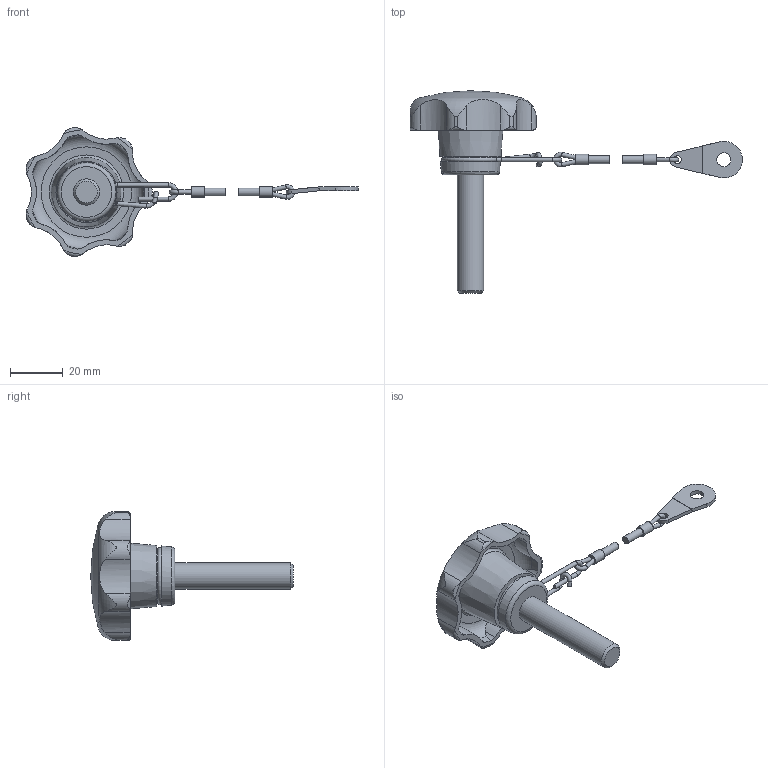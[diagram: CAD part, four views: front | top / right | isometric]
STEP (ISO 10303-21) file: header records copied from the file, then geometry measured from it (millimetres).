
FILE_DESCRIPTION( ( 'STEP AP203' ), '1' );
FILE_NAME( 'C:/Temp/Ganter_Step_05_03_2020/data/2_2/gn_6336_13/gn_6336_13_2/Star knob GN 6336.13-50-M10-45-H.stp', '2020-03-05T12:11:50', ( 'License CC BY-ND 4.0' ), ( 'CADENAS' ), ' ', 'PARTsolutions', ' ' );
FILE_SCHEMA( ( 'CONFIG_CONTROL_DESIGN' ) );
Length unit declared in the file: millimetre
Products named in the file (3): Star knob GN 6336.13-50-M10-45-H; _Star knob GN 6336.13-50-M10-45-H 6; _Star knob GN 111.2-200-14 h2
Assembly tree (2 placements, depth 2):
  Star knob GN 6336.13-50-M10-45-H
    _Star knob GN 6336.13-50-M10-45-H 6
    _Star knob GN 111.2-200-14 h2
Bounding box: 126.27 x 77 x 48.99 mm (x, y, z)
Volume: 26776.4 mm3; surface area: 10860.1 mm2
Topology: 2 solids, 2 shells, 133 faces, 361 edges, 233 vertices
Faces by surface type: cylinder 67, plane 34, torus 20, cone 11, sphere 1
Full cylindrical faces by diameter (mm): 1.6 x10, 3 x3, 4 x2, 5.3 x1, 10 x1, 18.5 x1
Entity records: 4840 total; most frequent: CARTESIAN_POINT 1623, DIRECTION 650, ORIENTED_EDGE 612, EDGE_CURVE 306, AXIS2_PLACEMENT_3D 280, VERTEX_POINT 221, EDGE_LOOP 184, FACE_OUTER_BOUND 163
